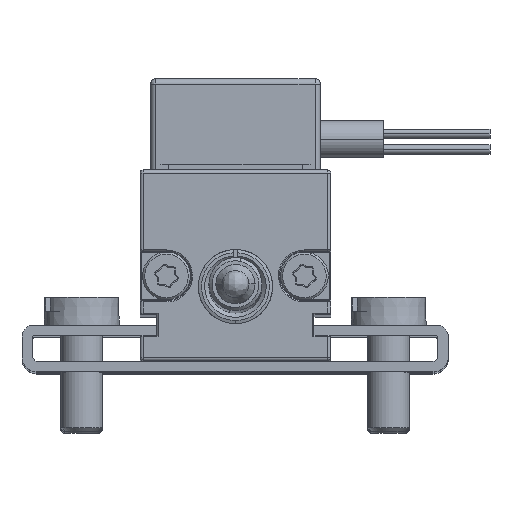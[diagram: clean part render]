
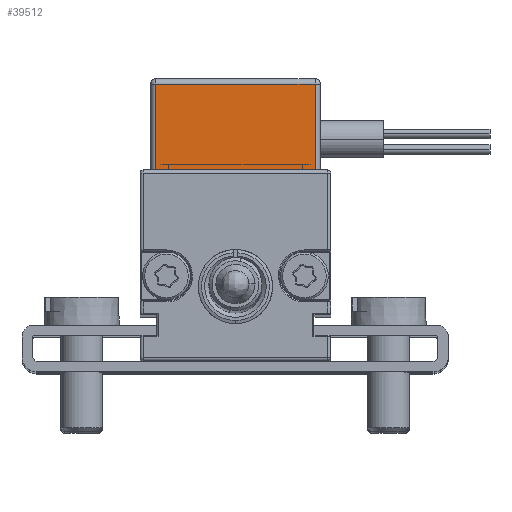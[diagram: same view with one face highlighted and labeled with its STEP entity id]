
A CAD part, top view. The second image highlights one B-rep face of the part: STEP entity #39512.
In plain terms, the highlighted planar face has unit normal (0, 0, 1).
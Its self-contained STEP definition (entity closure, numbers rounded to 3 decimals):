
#28214 = DIRECTION ( 'NONE',  ( -1., 0., 0. ) ) ;
#28215 = VECTOR ( 'NONE', #28214, 1000. ) ;
#28216 = CARTESIAN_POINT ( 'NONE',  ( -8.298, -12.288, 130. ) ) ;
#28217 = LINE ( 'NONE', #28216, #28215 ) ;
#29025 = DIRECTION ( 'NONE',  ( 1., 0., 0. ) ) ;
#29026 = VECTOR ( 'NONE', #29025, 1000. ) ;
#29027 = CARTESIAN_POINT ( 'NONE',  ( 7.702, -4.188, 130. ) ) ;
#29028 = LINE ( 'NONE', #29027, #29026 ) ;
#29063 = DIRECTION ( 'NONE',  ( -1., 0., 0. ) ) ;
#29064 = DIRECTION ( 'NONE',  ( 0., 0., -1. ) ) ;
#29065 = CARTESIAN_POINT ( 'NONE',  ( -8.298, -3.688, 130. ) ) ;
#29066 = AXIS2_PLACEMENT_3D ( 'NONE', #29065, #29064, #29063 ) ;
#29067 = PLANE ( 'NONE',  #29066 ) ;
#29083 = FACE_OUTER_BOUND ( 'NONE', #35094, .T. ) ;
#32427 = ORIENTED_EDGE ( 'NONE', *, *, #39351, .F. ) ;
#33782 = CARTESIAN_POINT ( 'NONE',  ( -7.798, -4.188, 130. ) ) ;
#34081 = ORIENTED_EDGE ( 'NONE', *, *, #40227, .F. ) ;
#34091 = DIRECTION ( 'NONE',  ( 0., -1., 0. ) ) ;
#34093 = VECTOR ( 'NONE', #34091, 1000. ) ;
#34095 = CARTESIAN_POINT ( 'NONE',  ( 7.202, -3.688, 130. ) ) ;
#34096 = LINE ( 'NONE', #34095, #34093 ) ;
#34113 = CARTESIAN_POINT ( 'NONE',  ( 7.202, -12.288, 130. ) ) ;
#34115 = CARTESIAN_POINT ( 'NONE',  ( 7.202, -4.188, 130. ) ) ;
#34158 = CARTESIAN_POINT ( 'NONE',  ( -7.798, -12.288, 130. ) ) ;
#34245 = DIRECTION ( 'NONE',  ( 0., 1., 0. ) ) ;
#34246 = VECTOR ( 'NONE', #34245, 1000. ) ;
#34248 = CARTESIAN_POINT ( 'NONE',  ( -7.798, -3.688, 130. ) ) ;
#34250 = LINE ( 'NONE', #34248, #34246 ) ;
#35094 = EDGE_LOOP ( 'NONE', ( #34081, #32427, #38138, #38184 ) ) ;
#36686 = EDGE_CURVE ( 'NONE', #40222, #40245, #28217, .T. ) ;
#38138 = ORIENTED_EDGE ( 'NONE', *, *, #40248, .F. ) ;
#38184 = ORIENTED_EDGE ( 'NONE', *, *, #36686, .F. ) ;
#39351 = EDGE_CURVE ( 'NONE', #40168, #40220, #29028, .T. ) ;
#39512 = ADVANCED_FACE ( 'NONE', ( #29083 ), #29067, .F. ) ;
#40168 = VERTEX_POINT ( 'NONE', #33782 ) ;
#40220 = VERTEX_POINT ( 'NONE', #34115 ) ;
#40222 = VERTEX_POINT ( 'NONE', #34113 ) ;
#40227 = EDGE_CURVE ( 'NONE', #40220, #40222, #34096, .T. ) ;
#40245 = VERTEX_POINT ( 'NONE', #34158 ) ;
#40248 = EDGE_CURVE ( 'NONE', #40245, #40168, #34250, .T. ) ;
